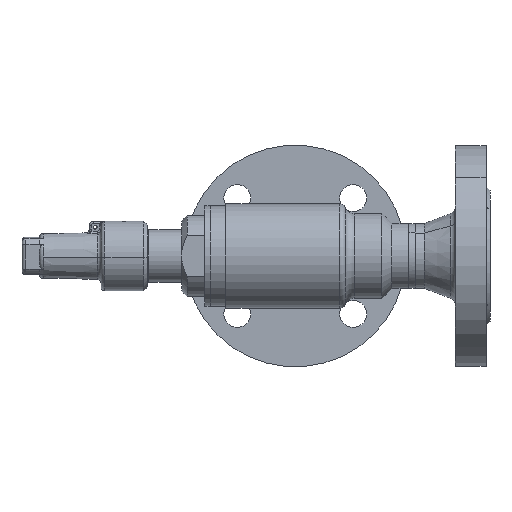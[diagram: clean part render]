
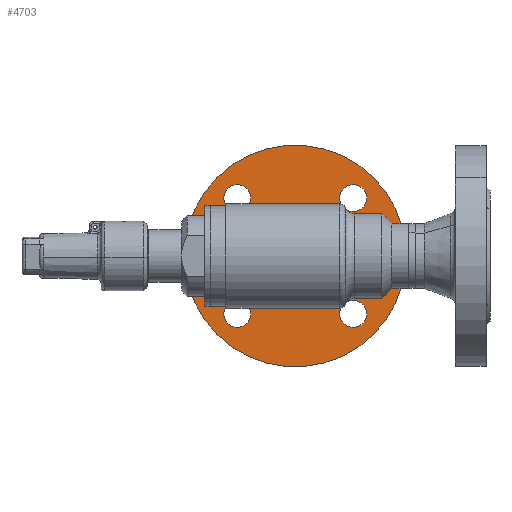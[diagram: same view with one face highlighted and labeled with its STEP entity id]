
A CAD part, left-side view. The second image highlights one B-rep face of the part: STEP entity #4703.
In plain terms, the highlighted planar face has unit normal (-1, 0, 0) as drawn and (0, 1, 0) by its records, which use the part's own axes.
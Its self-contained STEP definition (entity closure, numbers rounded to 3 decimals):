
#399 = CARTESIAN_POINT ( 'NONE',  ( 7., 18., 42.5 ) ) ;
#16854 = VERTEX_POINT ( 'NONE', #9574 ) ;
#16887 = CIRCLE ( 'NONE', #16906, 7. ) ;
#16906 = AXIS2_PLACEMENT_3D ( 'NONE', #16907, #16908, #16909 ) ;
#16907 = CARTESIAN_POINT ( 'NONE',  ( 42.5, 18., 0. ) ) ;
#16908 = DIRECTION ( 'NONE',  ( 0., 1., 0. ) ) ;
#16909 = DIRECTION ( 'NONE',  ( -1., 0., 0. ) ) ;
#16994 = ORIENTED_EDGE ( 'NONE', *, *, #15922, .T. ) ;
#17272 = EDGE_CURVE ( 'NONE', #19236, #16854, #11038, .T. ) ;
#953 = CARTESIAN_POINT ( 'NONE',  ( 25.748, 18., 0. ) ) ;
#17583 = VERTEX_POINT ( 'NONE', #11139 ) ;
#17964 = EDGE_LOOP ( 'NONE', ( #16994, #16022 ) ) ;
#18407 = ORIENTED_EDGE ( 'NONE', *, *, #23780, .F. ) ;
#19236 = VERTEX_POINT ( 'NONE', #13143 ) ;
#19373 = ORIENTED_EDGE ( 'NONE', *, *, #5090, .F. ) ;
#3566 = EDGE_CURVE ( 'NONE', #10468, #11580, #7121, .T. ) ;
#3940 = ORIENTED_EDGE ( 'NONE', *, *, #3566, .F. ) ;
#20335 = EDGE_LOOP ( 'NONE', ( #19373, #18407 ) ) ;
#20787 = ORIENTED_EDGE ( 'NONE', *, *, #10916, .F. ) ;
#4461 = EDGE_LOOP ( 'NONE', ( #3940, #12671 ) ) ;
#4703 = ADVANCED_FACE ( 'NONE', ( #9011, #9012, #9019, #9020, #9021, #9022 ), #9023, .F. ) ;
#5090 = EDGE_CURVE ( 'NONE', #23365, #25743, #9308, .T. ) ;
#21770 = CARTESIAN_POINT ( 'NONE',  ( -25.748, 18., 0. ) ) ;
#21800 = CARTESIAN_POINT ( 'NONE',  ( -7., 18., 42.5 ) ) ;
#23365 = VERTEX_POINT ( 'NONE', #21770 ) ;
#23387 = CIRCLE ( 'NONE', #23388, 25.748 ) ;
#23388 = AXIS2_PLACEMENT_3D ( 'NONE', #23389, #23390, #23391 ) ;
#23389 = CARTESIAN_POINT ( 'NONE',  ( 0., 18., 0. ) ) ;
#23390 = DIRECTION ( 'NONE',  ( 0., 1., 0. ) ) ;
#23391 = DIRECTION ( 'NONE',  ( -1., 0., 0. ) ) ;
#23436 = VERTEX_POINT ( 'NONE', #21800 ) ;
#23467 = CIRCLE ( 'NONE', #23468, 7. ) ;
#23468 = AXIS2_PLACEMENT_3D ( 'NONE', #23486, #23487, #23488 ) ;
#23486 = CARTESIAN_POINT ( 'NONE',  ( 0., 18., 42.5 ) ) ;
#23487 = DIRECTION ( 'NONE',  ( 0., 1., 0. ) ) ;
#23488 = DIRECTION ( 'NONE',  ( 0., 0., -1. ) ) ;
#7121 = CIRCLE ( 'NONE', #7122, 7. ) ;
#7122 = AXIS2_PLACEMENT_3D ( 'NONE', #7123, #7124, #7125 ) ;
#7123 = CARTESIAN_POINT ( 'NONE',  ( 0., 18., -42.5 ) ) ;
#7124 = DIRECTION ( 'NONE',  ( 0., 1., 0. ) ) ;
#7125 = DIRECTION ( 'NONE',  ( 0., 0., 1. ) ) ;
#23780 = EDGE_CURVE ( 'NONE', #25743, #23365, #23387, .T. ) ;
#23854 = EDGE_CURVE ( 'NONE', #25503, #23436, #23467, .T. ) ;
#8074 = EDGE_CURVE ( 'NONE', #10696, #11806, #16887, .T. ) ;
#8236 = ORIENTED_EDGE ( 'NONE', *, *, #8074, .F. ) ;
#8686 = CIRCLE ( 'NONE', #8687, 57.5 ) ;
#8687 = AXIS2_PLACEMENT_3D ( 'NONE', #8688, #8689, #8690 ) ;
#8688 = CARTESIAN_POINT ( 'NONE',  ( 0., 18., 0. ) ) ;
#8689 = DIRECTION ( 'NONE',  ( 0., 1., 0. ) ) ;
#8690 = DIRECTION ( 'NONE',  ( -1., 0., 0. ) ) ;
#8742 = CARTESIAN_POINT ( 'NONE',  ( -57.5, 18., 0. ) ) ;
#8774 = EDGE_LOOP ( 'NONE', ( #8236, #20787 ) ) ;
#9011 = FACE_BOUND ( 'NONE', #4461, .T. ) ;
#9012 = FACE_BOUND ( 'NONE', #12303, .T. ) ;
#9014 = ORIENTED_EDGE ( 'NONE', *, *, #23854, .F. ) ;
#9019 = FACE_BOUND ( 'NONE', #10587, .T. ) ;
#9020 = FACE_BOUND ( 'NONE', #8774, .T. ) ;
#9021 = FACE_BOUND ( 'NONE', #20335, .T. ) ;
#9022 = FACE_OUTER_BOUND ( 'NONE', #17964, .T. ) ;
#9023 = PLANE ( 'NONE',  #9024 ) ;
#9024 = AXIS2_PLACEMENT_3D ( 'NONE', #9025, #9026, #9027 ) ;
#9025 = CARTESIAN_POINT ( 'NONE',  ( 57.5, 18., 0. ) ) ;
#9026 = DIRECTION ( 'NONE',  ( 0., -1., 0. ) ) ;
#9027 = DIRECTION ( 'NONE',  ( 1., 0., 0. ) ) ;
#9049 = CIRCLE ( 'NONE', #9050, 57.5 ) ;
#9050 = AXIS2_PLACEMENT_3D ( 'NONE', #9056, #9057, #9058 ) ;
#9056 = CARTESIAN_POINT ( 'NONE',  ( 0., 18., 0. ) ) ;
#9057 = DIRECTION ( 'NONE',  ( 0., 1., 0. ) ) ;
#9058 = DIRECTION ( 'NONE',  ( -1., 0., 0. ) ) ;
#25503 = VERTEX_POINT ( 'NONE', #399 ) ;
#9308 = CIRCLE ( 'NONE', #9309, 25.748 ) ;
#9309 = AXIS2_PLACEMENT_3D ( 'NONE', #9310, #9311, #9312 ) ;
#9310 = CARTESIAN_POINT ( 'NONE',  ( 0., 18., 0. ) ) ;
#9311 = DIRECTION ( 'NONE',  ( 0., 1., 0. ) ) ;
#9312 = DIRECTION ( 'NONE',  ( -1., 0., 0. ) ) ;
#25743 = VERTEX_POINT ( 'NONE', #953 ) ;
#25841 = CIRCLE ( 'NONE', #25842, 7. ) ;
#25842 = AXIS2_PLACEMENT_3D ( 'NONE', #25843, #25844, #25845 ) ;
#25843 = CARTESIAN_POINT ( 'NONE',  ( 0., 18., 42.5 ) ) ;
#25844 = DIRECTION ( 'NONE',  ( 0., 1., 0. ) ) ;
#25845 = DIRECTION ( 'NONE',  ( 0., 0., -1. ) ) ;
#9525 = EDGE_CURVE ( 'NONE', #23436, #25503, #25841, .T. ) ;
#9574 = CARTESIAN_POINT ( 'NONE',  ( -49.5, 18., 0. ) ) ;
#9901 = ORIENTED_EDGE ( 'NONE', *, *, #9525, .F. ) ;
#10468 = VERTEX_POINT ( 'NONE', #12508 ) ;
#10587 = EDGE_LOOP ( 'NONE', ( #9901, #9014 ) ) ;
#10695 = EDGE_CURVE ( 'NONE', #11580, #10468, #12793, .T. ) ;
#10696 = VERTEX_POINT ( 'NONE', #12818 ) ;
#10821 = ORIENTED_EDGE ( 'NONE', *, *, #17272, .F. ) ;
#10916 = EDGE_CURVE ( 'NONE', #11806, #10696, #13541, .T. ) ;
#11038 = CIRCLE ( 'NONE', #11039, 7. ) ;
#11039 = AXIS2_PLACEMENT_3D ( 'NONE', #11040, #11041, #11042 ) ;
#11040 = CARTESIAN_POINT ( 'NONE',  ( -42.5, 18., 0. ) ) ;
#11041 = DIRECTION ( 'NONE',  ( 0., 1., 0. ) ) ;
#11042 = DIRECTION ( 'NONE',  ( 1., 0., 0. ) ) ;
#11139 = CARTESIAN_POINT ( 'NONE',  ( 57.5, 18., 0. ) ) ;
#11341 = EDGE_CURVE ( 'NONE', #16854, #19236, #14068, .T. ) ;
#11580 = VERTEX_POINT ( 'NONE', #14370 ) ;
#11710 = ORIENTED_EDGE ( 'NONE', *, *, #11341, .F. ) ;
#11806 = VERTEX_POINT ( 'NONE', #15443 ) ;
#12303 = EDGE_LOOP ( 'NONE', ( #11710, #10821 ) ) ;
#12508 = CARTESIAN_POINT ( 'NONE',  ( -7., 18., -42.5 ) ) ;
#12671 = ORIENTED_EDGE ( 'NONE', *, *, #10695, .F. ) ;
#12793 = CIRCLE ( 'NONE', #12794, 7. ) ;
#12794 = AXIS2_PLACEMENT_3D ( 'NONE', #12795, #12796, #12817 ) ;
#12795 = CARTESIAN_POINT ( 'NONE',  ( 0., 18., -42.5 ) ) ;
#12796 = DIRECTION ( 'NONE',  ( 0., 1., 0. ) ) ;
#12817 = DIRECTION ( 'NONE',  ( 0., 0., 1. ) ) ;
#12818 = CARTESIAN_POINT ( 'NONE',  ( 35.5, 18., 0. ) ) ;
#13143 = CARTESIAN_POINT ( 'NONE',  ( -35.5, 18., 0. ) ) ;
#13541 = CIRCLE ( 'NONE', #13542, 7. ) ;
#13542 = AXIS2_PLACEMENT_3D ( 'NONE', #13543, #13544, #13545 ) ;
#13543 = CARTESIAN_POINT ( 'NONE',  ( 42.5, 18., 0. ) ) ;
#13544 = DIRECTION ( 'NONE',  ( 0., 1., 0. ) ) ;
#13545 = DIRECTION ( 'NONE',  ( -1., 0., 0. ) ) ;
#14068 = CIRCLE ( 'NONE', #14069, 7. ) ;
#14069 = AXIS2_PLACEMENT_3D ( 'NONE', #14089, #14090, #14091 ) ;
#14089 = CARTESIAN_POINT ( 'NONE',  ( -42.5, 18., 0. ) ) ;
#14090 = DIRECTION ( 'NONE',  ( 0., 1., 0. ) ) ;
#14091 = DIRECTION ( 'NONE',  ( 1., 0., 0. ) ) ;
#14370 = CARTESIAN_POINT ( 'NONE',  ( 7., 18., -42.5 ) ) ;
#15331 = EDGE_CURVE ( 'NONE', #17583, #15505, #8686, .T. ) ;
#15443 = CARTESIAN_POINT ( 'NONE',  ( 49.5, 18., 0. ) ) ;
#15505 = VERTEX_POINT ( 'NONE', #8742 ) ;
#15922 = EDGE_CURVE ( 'NONE', #15505, #17583, #9049, .T. ) ;
#16022 = ORIENTED_EDGE ( 'NONE', *, *, #15331, .T. ) ;
